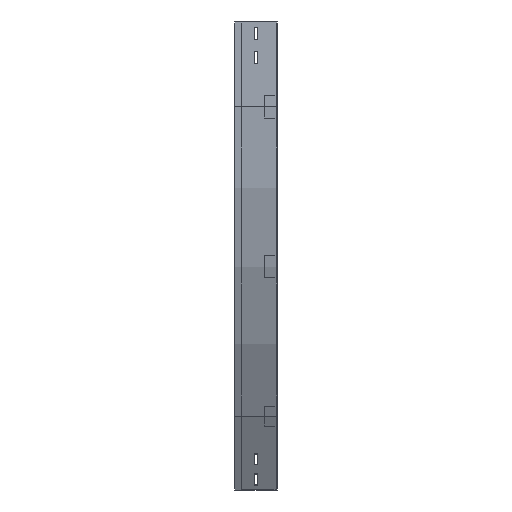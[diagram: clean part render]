
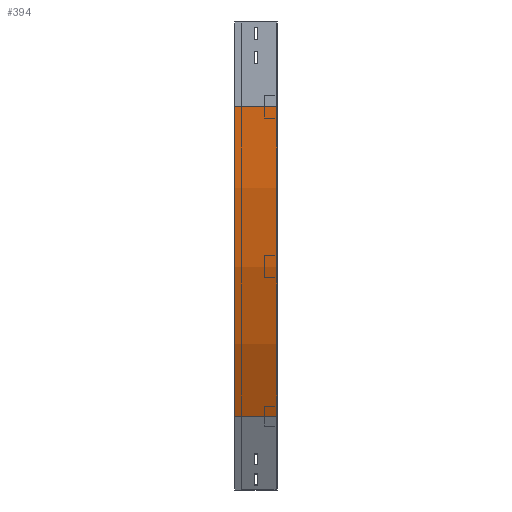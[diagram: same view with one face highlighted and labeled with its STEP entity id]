
A CAD part, left-side view. The second image highlights one B-rep face of the part: STEP entity #394.
In plain terms, the highlighted cylindrical face has radius 1100 mm (diameter 2200 mm), a partial arc.
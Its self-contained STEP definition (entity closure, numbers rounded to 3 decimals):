
#7 = VERTEX_POINT ( 'NONE', #2203 ) ;
#85 = AXIS2_PLACEMENT_3D ( 'NONE', #2726, #2763, #638 ) ;
#145 = ORIENTED_EDGE ( 'NONE', *, *, #2784, .F. ) ;
#363 = CARTESIAN_POINT ( 'NONE',  ( 147.372, 0., -700. ) ) ;
#394 = ADVANCED_FACE ( 'NONE', ( #2390 ), #2420, .T. ) ;
#455 = AXIS2_PLACEMENT_3D ( 'NONE', #3722, #3428, #2889 ) ;
#587 = VECTOR ( 'NONE', #2507, 1000. ) ;
#638 = DIRECTION ( 'NONE',  ( -1., 0., 0. ) ) ;
#800 = VERTEX_POINT ( 'NONE', #1346 ) ;
#924 = DIRECTION ( 'NONE',  ( 0., 0., -1. ) ) ;
#1093 = CARTESIAN_POINT ( 'NONE',  ( 0., 0., -150. ) ) ;
#1346 = CARTESIAN_POINT ( 'NONE',  ( 147.372, 75., -700. ) ) ;
#1492 = CARTESIAN_POINT ( 'NONE',  ( 1100., 0., -150. ) ) ;
#1742 = VERTEX_POINT ( 'NONE', #1774 ) ;
#1774 = CARTESIAN_POINT ( 'NONE',  ( 0., 75., -150. ) ) ;
#1911 = AXIS2_PLACEMENT_3D ( 'NONE', #1492, #2406, #924 ) ;
#2203 = CARTESIAN_POINT ( 'NONE',  ( 147.372, 0., -700. ) ) ;
#2288 = CIRCLE ( 'NONE', #455, 1100. ) ;
#2390 = FACE_OUTER_BOUND ( 'NONE', #3767, .T. ) ;
#2406 = DIRECTION ( 'NONE',  ( 0., -1., 0. ) ) ;
#2420 = CYLINDRICAL_SURFACE ( 'NONE', #1911, 1100. ) ;
#2507 = DIRECTION ( 'NONE',  ( 0., -1., 0. ) ) ;
#2726 = CARTESIAN_POINT ( 'NONE',  ( 1100., 0., -150. ) ) ;
#2763 = DIRECTION ( 'NONE',  ( 0., -1., 0. ) ) ;
#2784 = EDGE_CURVE ( 'NONE', #3598, #7, #3389, .T. ) ;
#2889 = DIRECTION ( 'NONE',  ( -1., 0., 0. ) ) ;
#2906 = DIRECTION ( 'NONE',  ( 0., -1., 0. ) ) ;
#2921 = ORIENTED_EDGE ( 'NONE', *, *, #3602, .F. ) ;
#3080 = ORIENTED_EDGE ( 'NONE', *, *, #3081, .T. ) ;
#3081 = EDGE_CURVE ( 'NONE', #800, #7, #3666, .T. ) ;
#3092 = VECTOR ( 'NONE', #2906, 1000. ) ;
#3164 = ORIENTED_EDGE ( 'NONE', *, *, #3168, .T. ) ;
#3168 = EDGE_CURVE ( 'NONE', #1742, #800, #2288, .T. ) ;
#3389 = CIRCLE ( 'NONE', #85, 1100. ) ;
#3428 = DIRECTION ( 'NONE',  ( 0., -1., 0. ) ) ;
#3598 = VERTEX_POINT ( 'NONE', #1093 ) ;
#3602 = EDGE_CURVE ( 'NONE', #1742, #3598, #3793, .T. ) ;
#3666 = LINE ( 'NONE', #363, #587 ) ;
#3722 = CARTESIAN_POINT ( 'NONE',  ( 1100., 75., -150. ) ) ;
#3767 = EDGE_LOOP ( 'NONE', ( #145, #2921, #3164, #3080 ) ) ;
#3774 = CARTESIAN_POINT ( 'NONE',  ( 0., 0., -150. ) ) ;
#3793 = LINE ( 'NONE', #3774, #3092 ) ;
